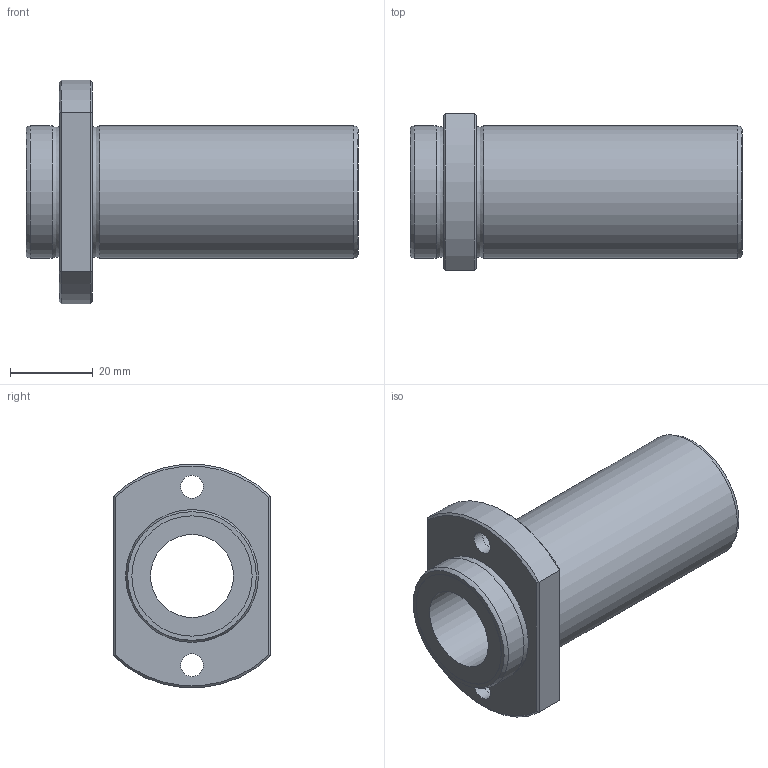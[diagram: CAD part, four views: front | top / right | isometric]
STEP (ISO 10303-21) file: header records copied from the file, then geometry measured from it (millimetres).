
FILE_DESCRIPTION((''),'2;1');
FILE_NAME('D:\製品 (図面)\カタログ用3D\リニアベアリング関連\STEP形式\LFDTB\LFDTB20.stp','2010-06-03T09:51:34',('Tsuchiya'),(''),'Autodesk Inventor 10','Autodesk Inventor 10','');
FILE_SCHEMA(('AUTOMOTIVE_DESIGN { 1 0 10303 214 1 1 1 1 }'));
Length unit declared in the file: millimetre
Products named in the file (1): LFDTB20
Bounding box: 80 x 38 x 53.8 mm (x, y, z)
Volume: 46650.8 mm3; surface area: 16854.4 mm2
Topology: 1 solids, 1 shells, 33 faces, 63 edges, 38 vertices
Faces by surface type: plane 12, bspline 8, cylinder 7, cone 4, torus 2
Full cylindrical faces by diameter (mm): 20 x1, 29 x2, 32 x2
Entity records: 977 total; most frequent: CARTESIAN_POINT 344, DIRECTION 124, ORIENTED_EDGE 100, EDGE_LOOP 58, AXIS2_PLACEMENT_3D 56, EDGE_CURVE 50, VERTEX_POINT 38, FACE_OUTER_BOUND 33
